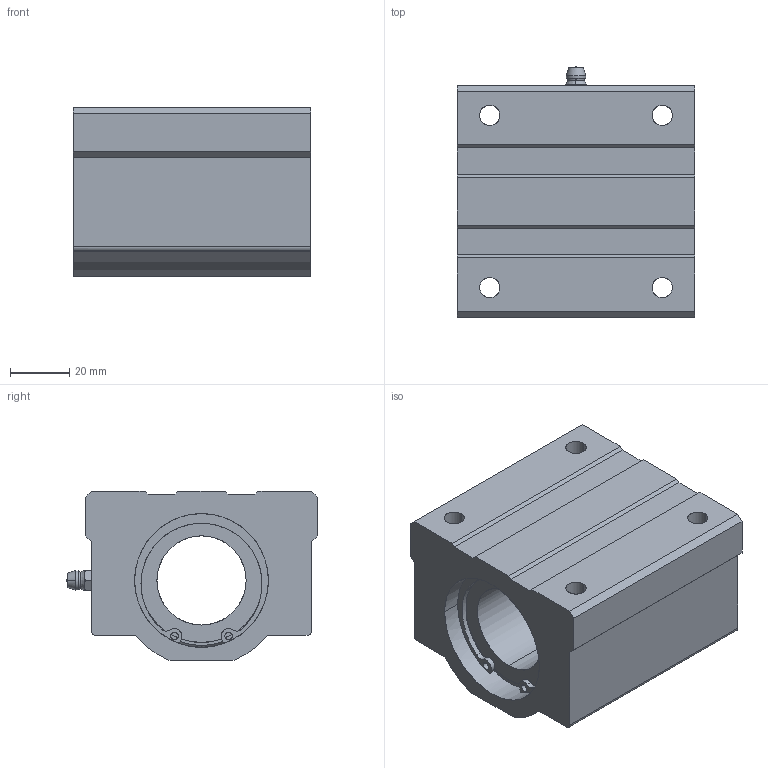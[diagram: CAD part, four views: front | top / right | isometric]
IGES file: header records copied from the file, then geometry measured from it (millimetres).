
Global section: file name: No Iges File Name specified; native system: AutoDesk Inventor R10; preprocessor: AutoDesk Inventor Iges Exporter R10; author: No Author specified; organization: No Organization specified; date: 20101214.143509; units: millimetre
Bounding box: 80 x 84.4 x 57 mm (x, y, z)
Surface area: 42080 mm2 (no closed solid volume)
Topology: 0 solids, 0 shells, 134 faces, 942 edges, 938 vertices
Faces by surface type: bspline 134
